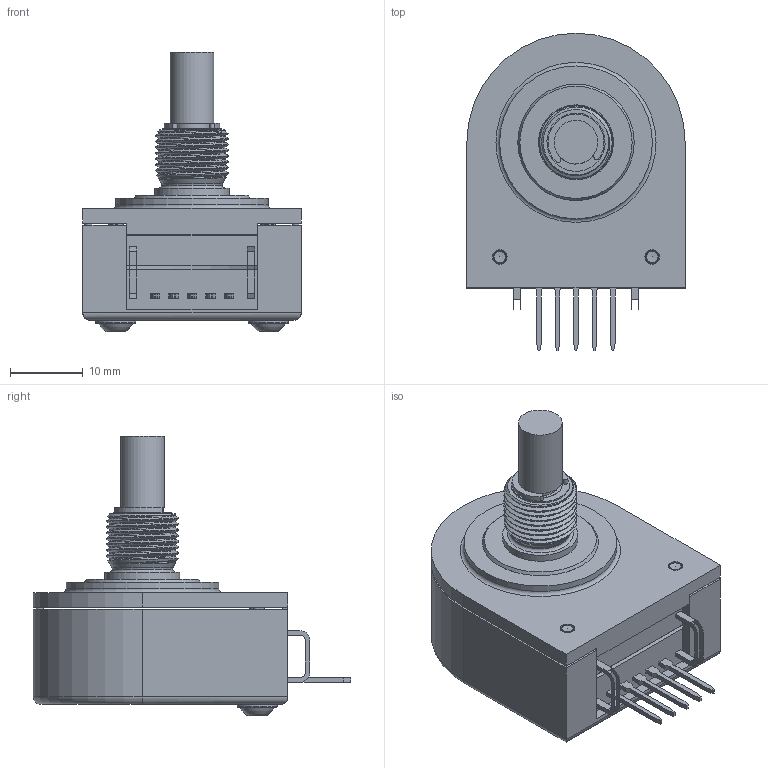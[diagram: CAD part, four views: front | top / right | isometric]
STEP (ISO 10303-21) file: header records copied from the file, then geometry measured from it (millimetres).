
FILE_DESCRIPTION (( 'STEP AP214' ), '1' );
FILE_NAME ('00.009.xx.ZSB_gen.STEP', '2018-03-26T07:58:22', ( '' ), ( '' ), 'SwSTEP 2.0', 'SolidWorks 2017', '' );
FILE_SCHEMA (( 'AUTOMOTIVE_DESIGN' ));
Length unit declared in the file: millimetre
Products named in the file (2): 00.009.xx.ZSB_gen
Bounding box: 30 x 43.62 x 38.45 mm (x, y, z)
Surface area: 6214.6 mm2 (no closed solid volume)
Topology: 0 solids, 13 shells, 213 faces, 1014 edges, 808 vertices
Faces by surface type: plane 104, cylinder 54, bspline 34, torus 10, cone 7, sphere 4
Full cylindrical faces by diameter (mm): 1 x3, 2 x2, 2.52 x2, 5 x1, 5.5 x2, 6 x3, 8 x1, 8.3 x1, 10.3 x1, 16 x1, 21 x1
Entity records: 22129 total; most frequent: CARTESIAN_POINT 12719, ORIENTED_EDGE 1371, DIRECTION 1163, EDGE_CURVE 962, VERTEX_POINT 793, VECTOR 485, LINE 485, AXIS2_PLACEMENT_3D 339
